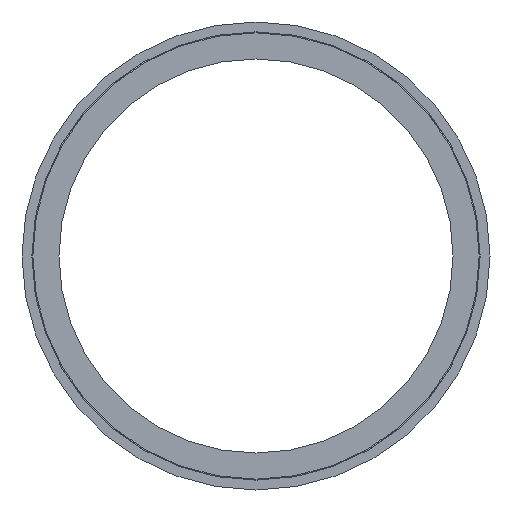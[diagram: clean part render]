
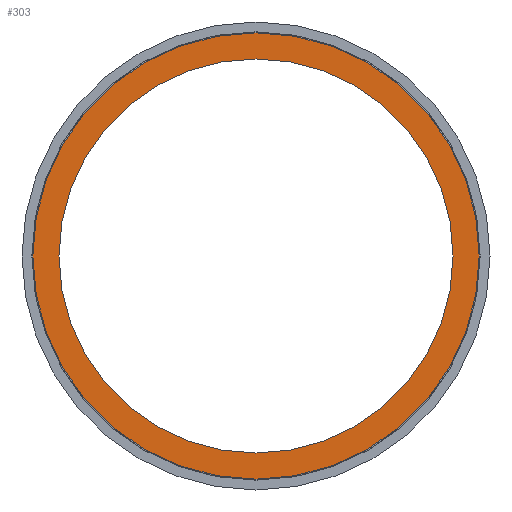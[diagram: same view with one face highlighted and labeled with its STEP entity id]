
A CAD part, left-side view. The second image highlights one B-rep face of the part: STEP entity #303.
In plain terms, the highlighted planar face has unit normal (-1, 0, 0).
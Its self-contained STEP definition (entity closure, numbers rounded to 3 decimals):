
#52=FACE_BOUND('',#95,.T.);
#57=PLANE('',#368);
#76=FACE_OUTER_BOUND('',#94,.T.);
#94=EDGE_LOOP('',(#275,#276));
#95=EDGE_LOOP('',(#277,#278));
#126=CIRCLE('',#349,22.651);
#127=CIRCLE('',#350,22.651);
#131=CIRCLE('',#355,20.);
#132=CIRCLE('',#356,20.);
#156=VERTEX_POINT('',#551);
#157=VERTEX_POINT('',#552);
#160=VERTEX_POINT('',#561);
#161=VERTEX_POINT('',#563);
#189=EDGE_CURVE('',#156,#157,#126,.T.);
#190=EDGE_CURVE('',#157,#156,#127,.T.);
#195=EDGE_CURVE('',#160,#161,#131,.T.);
#196=EDGE_CURVE('',#161,#160,#132,.T.);
#275=ORIENTED_EDGE('',*,*,#189,.T.);
#276=ORIENTED_EDGE('',*,*,#190,.T.);
#277=ORIENTED_EDGE('',*,*,#196,.F.);
#278=ORIENTED_EDGE('',*,*,#195,.F.);
#303=ADVANCED_FACE('',(#76,#52),#57,.F.);
#349=AXIS2_PLACEMENT_3D('',#553,#437,#438);
#350=AXIS2_PLACEMENT_3D('',#554,#439,#440);
#355=AXIS2_PLACEMENT_3D('',#564,#450,#451);
#356=AXIS2_PLACEMENT_3D('',#565,#452,#453);
#368=AXIS2_PLACEMENT_3D('',#584,#477,#478);
#437=DIRECTION('center_axis',(-1.,0.,0.));
#438=DIRECTION('ref_axis',(0.,0.,1.));
#439=DIRECTION('center_axis',(-1.,0.,0.));
#440=DIRECTION('ref_axis',(0.,0.,1.));
#450=DIRECTION('center_axis',(-1.,0.,0.));
#451=DIRECTION('ref_axis',(0.,0.,1.));
#452=DIRECTION('center_axis',(-1.,0.,0.));
#453=DIRECTION('ref_axis',(0.,0.,1.));
#477=DIRECTION('center_axis',(1.,0.,0.));
#478=DIRECTION('ref_axis',(0.,0.,-1.));
#551=CARTESIAN_POINT('',(0.,0.,22.651));
#552=CARTESIAN_POINT('',(0.,0.,-22.651));
#553=CARTESIAN_POINT('Origin',(0.,0.,0.));
#554=CARTESIAN_POINT('Origin',(0.,0.,0.));
#561=CARTESIAN_POINT('',(0.,0.,-20.));
#563=CARTESIAN_POINT('',(0.,0.,20.));
#564=CARTESIAN_POINT('Origin',(0.,0.,0.));
#565=CARTESIAN_POINT('Origin',(0.,0.,0.));
#584=CARTESIAN_POINT('Origin',(0.,22.651,0.));
